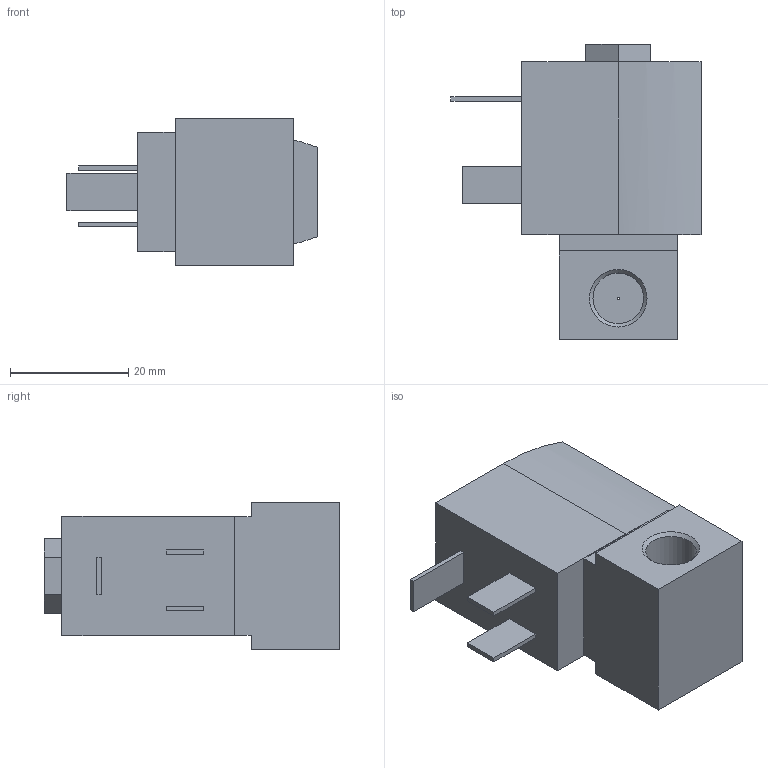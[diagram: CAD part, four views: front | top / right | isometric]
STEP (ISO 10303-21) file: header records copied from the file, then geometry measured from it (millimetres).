
FILE_DESCRIPTION( ( 'STEP AP214' ), '1' );
FILE_NAME( 'p:/temp/worker_17/temp/app_47_02018110118574935935729192d056f_000000_00_00_000000/format_0/6011-163517-2_2-Way-mini-solenoid-valve.stp', '2018-11-01T17:57:49', ( '' ), ( '' ), ' ', 'PARTsolutions', ' ' );
FILE_SCHEMA( ( 'AUTOMOTIVE_DESIGN { 1 0 10303 214 1 1 1 1 }' ) );
Length unit declared in the file: millimetre
Products named in the file (1): _6011-163517-2/2-Way-mini-solenoid-valve
Bounding box: 42.3 x 50 x 25 mm (x, y, z)
Volume: 25354.5 mm3; surface area: 6777.1 mm2
Topology: 1 solids, 1 shells, 49 faces, 117 edges, 76 vertices
Faces by surface type: plane 42, cylinder 5, cone 2
Full cylindrical faces by diameter (mm): 0.4 x1, 8.566 x2
Entity records: 1786 total; most frequent: CARTESIAN_POINT 238, DIRECTION 228, ORIENTED_EDGE 224, EDGE_CURVE 112, LINE 96, VECTOR 96, VERTEX_POINT 76, AXIS2_PLACEMENT_3D 66
